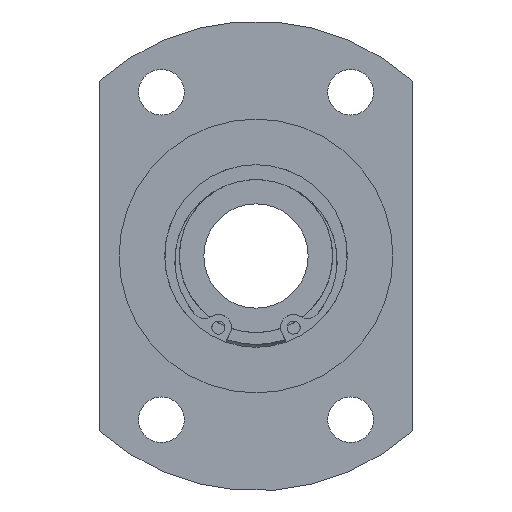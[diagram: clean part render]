
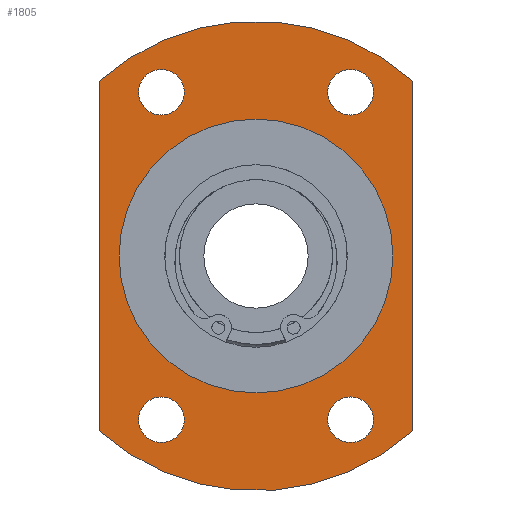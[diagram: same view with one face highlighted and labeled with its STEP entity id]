
A CAD part, left-side view. The second image highlights one B-rep face of the part: STEP entity #1805.
In plain terms, the highlighted planar face has unit normal (-1, 0, 0).
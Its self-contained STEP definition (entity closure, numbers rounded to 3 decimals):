
#1565=CARTESIAN_POINT('',(9.0,18.,-25.115));
#1566=VERTEX_POINT('',#1565);
#1567=CARTESIAN_POINT('',(9.,14.5,-25.115));
#1568=DIRECTION('',(1.0,0.0,0.0));
#1569=DIRECTION('',(0.0,1.0,0.0));
#1570=AXIS2_PLACEMENT_3D('',#1567,#1568,#1569);
#1571=CIRCLE('',#1570,3.5);
#1572=EDGE_CURVE('',#1566,#1566,#1571,.T.);
#1593=CARTESIAN_POINT('',(9.0,-11.,25.115));
#1594=VERTEX_POINT('',#1593);
#1595=CARTESIAN_POINT('',(9.,-14.5,25.115));
#1596=DIRECTION('',(1.0,0.0,0.0));
#1597=DIRECTION('',(0.0,1.0,0.0));
#1598=AXIS2_PLACEMENT_3D('',#1595,#1596,#1597);
#1599=CIRCLE('',#1598,3.5);
#1600=EDGE_CURVE('',#1594,#1594,#1599,.T.);
#1621=CARTESIAN_POINT('',(9.0,18.,25.115));
#1622=VERTEX_POINT('',#1621);
#1623=CARTESIAN_POINT('',(9.,14.5,25.115));
#1624=DIRECTION('',(1.0,0.0,0.0));
#1625=DIRECTION('',(0.0,1.0,0.0));
#1626=AXIS2_PLACEMENT_3D('',#1623,#1624,#1625);
#1627=CIRCLE('',#1626,3.5);
#1628=EDGE_CURVE('',#1622,#1622,#1627,.T.);
#1649=CARTESIAN_POINT('',(9.0,-11.,-25.115));
#1650=VERTEX_POINT('',#1649);
#1651=CARTESIAN_POINT('',(9.,-14.5,-25.115));
#1652=DIRECTION('',(1.0,0.0,0.0));
#1653=DIRECTION('',(0.0,1.0,0.0));
#1654=AXIS2_PLACEMENT_3D('',#1651,#1652,#1653);
#1655=CIRCLE('',#1654,3.5);
#1656=EDGE_CURVE('',#1650,#1650,#1655,.T.);
#1676=CARTESIAN_POINT('',(9.0,24.,-26.833));
#1677=VERTEX_POINT('',#1676);
#1684=CARTESIAN_POINT('',(9.0,24.0,26.833));
#1685=VERTEX_POINT('',#1684);
#1686=CARTESIAN_POINT('',(9.0,24.0,26.833));
#1687=DIRECTION('',(0.0,0.0,-1.0));
#1688=VECTOR('',#1687,53.666);
#1689=LINE('',#1686,#1688);
#1690=EDGE_CURVE('',#1685,#1677,#1689,.T.);
#1716=CARTESIAN_POINT('',(9.0,-24.,26.833));
#1717=VERTEX_POINT('',#1716);
#1724=CARTESIAN_POINT('',(9.0,-24.,-26.833));
#1725=VERTEX_POINT('',#1724);
#1726=CARTESIAN_POINT('',(9.0,-24.,-26.833));
#1727=DIRECTION('',(0.0,0.0,1.0));
#1728=VECTOR('',#1727,53.666);
#1729=LINE('',#1726,#1728);
#1730=EDGE_CURVE('',#1725,#1717,#1729,.T.);
#1755=CARTESIAN_POINT('',(9.,0.0,0.0));
#1756=DIRECTION('',(-1.0,0.0,0.0));
#1757=DIRECTION('',(0.0,0.0,1.0));
#1758=AXIS2_PLACEMENT_3D('',#1755,#1756,#1757);
#1759=CIRCLE('',#1758,36.0);
#1760=EDGE_CURVE('',#1677,#1725,#1759,.T.);
#1765=CARTESIAN_POINT('',(9.,0.0,28.5));
#1766=DIRECTION('',(-1.0,0.0,0.0));
#1767=DIRECTION('',(0.0,0.0,1.0));
#1768=AXIS2_PLACEMENT_3D('',#1765,#1766,#1767);
#1769=PLANE('',#1768);
#1770=ORIENTED_EDGE('',*,*,#1690,.T.);
#1771=ORIENTED_EDGE('',*,*,#1760,.T.);
#1772=ORIENTED_EDGE('',*,*,#1730,.T.);
#1773=CARTESIAN_POINT('',(9.,0.0,0.0));
#1774=DIRECTION('',(-1.0,0.0,0.0));
#1775=DIRECTION('',(0.0,0.0,1.0));
#1776=AXIS2_PLACEMENT_3D('',#1773,#1774,#1775);
#1777=CIRCLE('',#1776,36.0);
#1778=EDGE_CURVE('',#1717,#1685,#1777,.T.);
#1779=ORIENTED_EDGE('',*,*,#1778,.T.);
#1780=EDGE_LOOP('',(#1770,#1771,#1772,#1779));
#1781=FACE_OUTER_BOUND('',#1780,.T.);
#1782=ORIENTED_EDGE('',*,*,#1572,.T.);
#1783=EDGE_LOOP('',(#1782));
#1784=FACE_BOUND('',#1783,.T.);
#1785=ORIENTED_EDGE('',*,*,#1600,.T.);
#1786=EDGE_LOOP('',(#1785));
#1787=FACE_BOUND('',#1786,.T.);
#1788=ORIENTED_EDGE('',*,*,#1628,.T.);
#1789=EDGE_LOOP('',(#1788));
#1790=FACE_BOUND('',#1789,.T.);
#1791=ORIENTED_EDGE('',*,*,#1656,.T.);
#1792=EDGE_LOOP('',(#1791));
#1793=FACE_BOUND('',#1792,.T.);
#1794=CARTESIAN_POINT('',(9.0,0.0,21.));
#1795=VERTEX_POINT('',#1794);
#1796=CARTESIAN_POINT('',(9.0,0.0,0.0));
#1797=DIRECTION('',(-1.0,0.0,0.0));
#1798=DIRECTION('',(0.0,0.0,1.0));
#1799=AXIS2_PLACEMENT_3D('',#1796,#1797,#1798);
#1800=CIRCLE('',#1799,21.);
#1801=EDGE_CURVE('',#1795,#1795,#1800,.T.);
#1802=ORIENTED_EDGE('',*,*,#1801,.F.);
#1803=EDGE_LOOP('',(#1802));
#1804=FACE_BOUND('',#1803,.T.);
#1805=ADVANCED_FACE('',(#1781,#1784,#1787,#1790,#1793,#1804),#1769,.T.);
